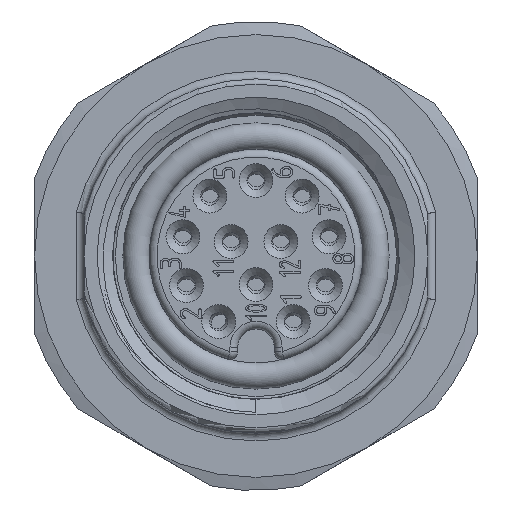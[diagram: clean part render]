
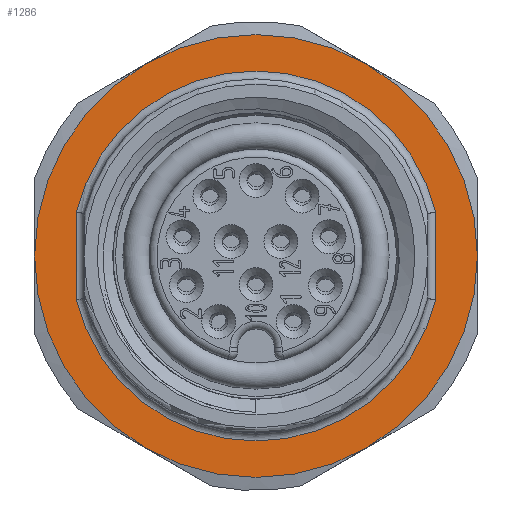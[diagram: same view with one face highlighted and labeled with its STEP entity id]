
A CAD part, left-side view. The second image highlights one B-rep face of the part: STEP entity #1286.
In plain terms, the highlighted planar face has unit normal (-1, 0, 0).
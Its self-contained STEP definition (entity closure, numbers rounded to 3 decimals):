
#1286=ADVANCED_FACE('',(#2077,#2078),#1845,.T.);
#1845=PLANE('',#8719);
#2077=FACE_BOUND('',#2473,.T.);
#2078=FACE_BOUND('',#2474,.T.);
#2473=EDGE_LOOP('',(#3700,#3701,#3702,#3703));
#2474=EDGE_LOOP('',(#3704,#3705,#3706,#3707,#3708,#3709));
#3252=CIRCLE('',#8695,8.5);
#3254=CIRCLE('',#8699,8.5);
#3256=CIRCLE('',#8703,8.5);
#3258=CIRCLE('',#8707,8.5);
#3260=CIRCLE('',#8711,8.5);
#3263=CIRCLE('',#8716,7.1);
#3264=CIRCLE('',#8717,7.1);
#3265=CIRCLE('',#8718,8.5);
#3700=ORIENTED_EDGE('',*,*,#6731,.T.);
#3701=ORIENTED_EDGE('',*,*,#6732,.T.);
#3702=ORIENTED_EDGE('',*,*,#6733,.T.);
#3703=ORIENTED_EDGE('',*,*,#6734,.T.);
#3704=ORIENTED_EDGE('',*,*,#6726,.T.);
#3705=ORIENTED_EDGE('',*,*,#6735,.T.);
#3706=ORIENTED_EDGE('',*,*,#6702,.T.);
#3707=ORIENTED_EDGE('',*,*,#6708,.T.);
#3708=ORIENTED_EDGE('',*,*,#6714,.T.);
#3709=ORIENTED_EDGE('',*,*,#6720,.T.);
#5924=VERTEX_POINT('',#11635);
#5925=VERTEX_POINT('',#11640);
#5928=VERTEX_POINT('',#11657);
#5931=VERTEX_POINT('',#11674);
#5934=VERTEX_POINT('',#11691);
#5937=VERTEX_POINT('',#11708);
#5942=VERTEX_POINT('',#11721);
#5943=VERTEX_POINT('',#11722);
#5944=VERTEX_POINT('',#11724);
#5945=VERTEX_POINT('',#11726);
#6702=EDGE_CURVE('',#5924,#5925,#3252,.T.);
#6708=EDGE_CURVE('',#5925,#5928,#3254,.T.);
#6714=EDGE_CURVE('',#5928,#5931,#3256,.T.);
#6720=EDGE_CURVE('',#5931,#5934,#3258,.T.);
#6726=EDGE_CURVE('',#5934,#5937,#3260,.T.);
#6731=EDGE_CURVE('',#5942,#5943,#3263,.T.);
#6732=EDGE_CURVE('',#5943,#5944,#7830,.T.);
#6733=EDGE_CURVE('',#5944,#5945,#3264,.T.);
#6734=EDGE_CURVE('',#5945,#5942,#7831,.T.);
#6735=EDGE_CURVE('',#5937,#5924,#3265,.T.);
#7830=LINE('',#11723,#8202);
#7831=LINE('',#11727,#8203);
#8202=VECTOR('',#9580,1.);
#8203=VECTOR('',#9583,1.);
#8695=AXIS2_PLACEMENT_3D('',#11641,#9526,#9527);
#8699=AXIS2_PLACEMENT_3D('',#11658,#9536,#9537);
#8703=AXIS2_PLACEMENT_3D('',#11675,#9546,#9547);
#8707=AXIS2_PLACEMENT_3D('',#11692,#9556,#9557);
#8711=AXIS2_PLACEMENT_3D('',#11709,#9566,#9567);
#8716=AXIS2_PLACEMENT_3D('',#11720,#9578,#9579);
#8717=AXIS2_PLACEMENT_3D('',#11725,#9581,#9582);
#8718=AXIS2_PLACEMENT_3D('',#11728,#9584,#9585);
#8719=AXIS2_PLACEMENT_3D('',#11729,#9586,#9587);
#9526=DIRECTION('',(-1.,0.,0.));
#9527=DIRECTION('',(0.,0.,1.));
#9536=DIRECTION('',(-1.,0.,0.));
#9537=DIRECTION('',(0.,0.,1.));
#9546=DIRECTION('',(-1.,0.,0.));
#9547=DIRECTION('',(0.,0.,1.));
#9556=DIRECTION('',(-1.,0.,0.));
#9557=DIRECTION('',(0.,0.,1.));
#9566=DIRECTION('',(-1.,0.,0.));
#9567=DIRECTION('',(0.,0.,1.));
#9578=DIRECTION('',(1.,0.,0.));
#9579=DIRECTION('',(0.,0.,1.));
#9580=DIRECTION('',(0.,0.,1.));
#9581=DIRECTION('',(1.,0.,0.));
#9582=DIRECTION('',(0.,0.,1.));
#9583=DIRECTION('',(0.,0.,-1.));
#9584=DIRECTION('',(-1.,0.,0.));
#9585=DIRECTION('',(0.,0.,1.));
#9586=DIRECTION('',(-1.,0.,0.));
#9587=DIRECTION('',(0.,0.,1.));
#11635=CARTESIAN_POINT('',(8.,4.25,-7.361));
#11640=CARTESIAN_POINT('',(8.,-4.25,-7.361));
#11641=CARTESIAN_POINT('',(8.,0.,0.));
#11657=CARTESIAN_POINT('',(8.,-8.5,0.));
#11658=CARTESIAN_POINT('',(8.,0.,0.));
#11674=CARTESIAN_POINT('',(8.,-4.25,7.361));
#11675=CARTESIAN_POINT('',(8.,0.,0.));
#11691=CARTESIAN_POINT('',(8.,4.25,7.361));
#11692=CARTESIAN_POINT('',(8.,0.,0.));
#11708=CARTESIAN_POINT('',(8.,8.5,0.));
#11709=CARTESIAN_POINT('',(8.,0.,0.));
#11720=CARTESIAN_POINT('',(8.,0.,0.));
#11721=CARTESIAN_POINT('',(8.,-6.9,-1.673));
#11722=CARTESIAN_POINT('',(8.,6.9,-1.673));
#11723=CARTESIAN_POINT('',(8.,6.9,0.));
#11724=CARTESIAN_POINT('',(8.,6.9,1.673));
#11725=CARTESIAN_POINT('',(8.,0.,0.));
#11726=CARTESIAN_POINT('',(8.,-6.9,1.673));
#11727=CARTESIAN_POINT('',(8.,-6.9,0.));
#11728=CARTESIAN_POINT('',(8.,0.,0.));
#11729=CARTESIAN_POINT('',(8.,0.,0.));
